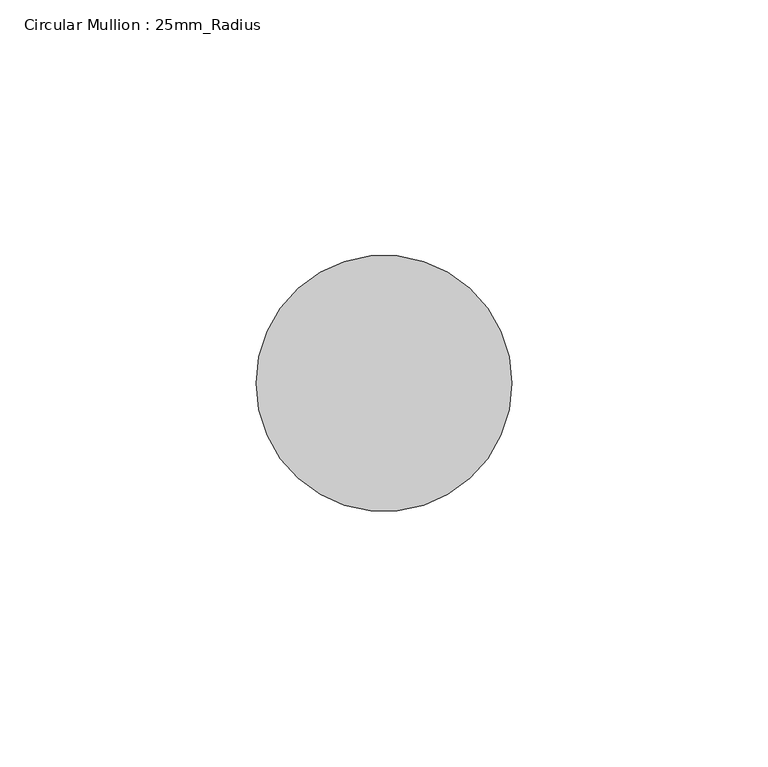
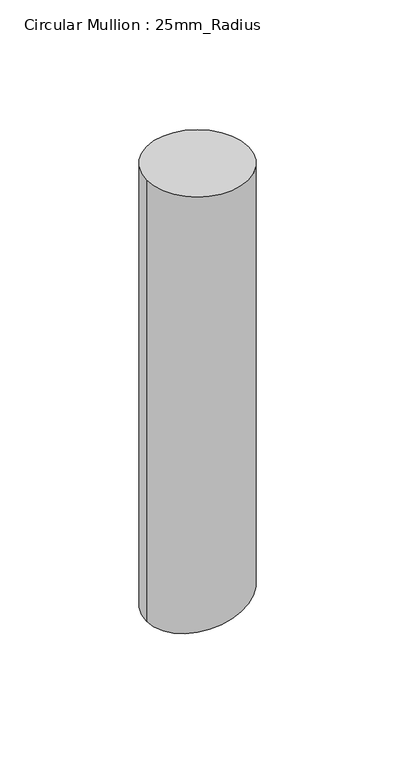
"""IFC4 building model written with IfcOpenShell, lengths in millimetres: member geometry, Circular Mullion : 25mm_Radius."""

from ifc_helpers import new_model, si_unit, frame, origin, place, context, project, spatial, circle_curve, ellipse_curve, source, transform, mapped, element, save
from ifc_brep_helpers import plane_surface, cylinder_surface, advanced_brep


def circular_mullion_25mm_radius_1fda37b8(model_context):
    return source(origin(), model_context, "Body", "AdvancedBrep", [
        advanced_brep(
        [(-50.0, 0.0, 0.0), (0.0, 0.0, 0.0), (0.0, 0.0, -216.8586204), (-50.0, 0.0, -229.0990934)],
        [
            (0, 1, circle_curve(frame((-25.0, 0.0, 0.0), z_axis=(0.0, 0.0, -1.0), x_axis=(1.0, 0.0, 0.0)), 25.0)),
            (1, 2),
            (2, 3, ellipse_curve(frame((-25.0, 0.0, -222.9788569), z_axis=(-0.23778763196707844, 0.0, 0.9713171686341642), x_axis=(0.9713171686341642, 0.0, 0.23778763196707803)), 25.7382458, 25.0)),
            (3, 0),
            (1, 0, circle_curve(frame((-25.0, 0.0, 0.0), z_axis=(0.0, 0.0, -1.0), x_axis=(1.0, 0.0, 0.0)), 25.0)),
            (3, 2, ellipse_curve(frame((-25.0, 0.0, -222.9788569), z_axis=(-0.23778763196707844, 0.0, 0.9713171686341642), x_axis=(0.9713171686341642, 0.0, 0.23778763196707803)), 25.7382458, 25.0)),
        ],
        [
            cylinder_surface(frame((-25.0, 0.0, 0.0), z_axis=(0.0, 0.0, 1.0), x_axis=(1.0, 0.0, 0.0)), 25.0),
            plane_surface(frame((-304.8, 0.0, 0.0), z_axis=(0.0, 0.0, 1.0), x_axis=(0.0, 1.0, 0.0))),
            plane_surface(frame((0.0, 304.8, -216.8586204), z_axis=(0.23778763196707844, 0.0, -0.9713171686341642), x_axis=(0.9713171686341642, 0.0, 0.23778763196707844))),
        ],
        [
            (0, [[1, 2, 3, 4]]),
            (0, [[5, -4, 6, -2]]),
            (1, [[-1, -5]]),
            (2, [[-6, -3]]),
        ],
    ),
    ])


if __name__ == "__main__":
    model = new_model("IFC4")
    model_context = context("Model", 3, world=origin())
    ifc_project = project(units=[si_unit("LENGTHUNIT", "METRE", prefix="MILLI")], contexts=[model_context])
    site = spatial("IfcSite", under=ifc_project)
    building = spatial("IfcBuilding", under=site)
    placement = place(None, origin())
    circular_mullion_25mm_radius_shape = circular_mullion_25mm_radius_1fda37b8(model_context)
    element("IfcMember", 1, ObjectType="Circular Mullion : 25mm_Radius", at=placement, inside=building, context=model_context, shape_type="MappedRepresentation", body=[
        mapped(circular_mullion_25mm_radius_shape, transform((0.0, 0.0, 0.0), x_axis=(1.0, 0.0, 0.0), y_axis=(0.0, 1.0, 0.0), z_axis=(0.0, 0.0, 1.0))),
    ])
    save(model, "model.ifc")
